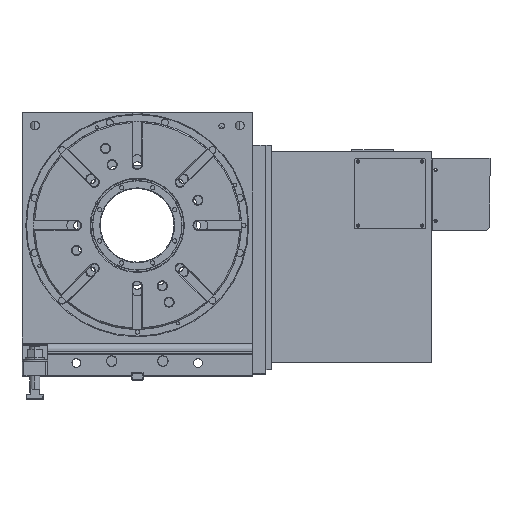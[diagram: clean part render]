
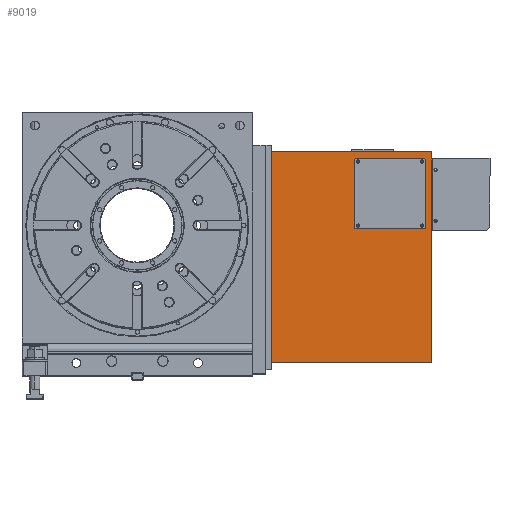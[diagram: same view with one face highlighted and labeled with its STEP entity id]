
A CAD part, top view. The second image highlights one B-rep face of the part: STEP entity #9019.
In plain terms, the highlighted planar face has unit normal (0, 0, 1).
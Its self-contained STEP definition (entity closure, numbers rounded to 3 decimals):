
#24 = LINE ( 'NONE', #7987, #8441 ) ;
#485 = CARTESIAN_POINT ( 'NONE',  ( 210., -220., 19.6 ) ) ;
#581 = AXIS2_PLACEMENT_3D ( 'NONE', #14123, #8814, #8288 ) ;
#1507 = ORIENTED_EDGE ( 'NONE', *, *, #25427, .F. ) ;
#1762 = CARTESIAN_POINT ( 'NONE',  ( 445., -2.05, 19.6 ) ) ;
#1783 = DIRECTION ( 'NONE',  ( 0., 0., 1. ) ) ;
#2195 = LINE ( 'NONE', #28580, #2834 ) ;
#2228 = AXIS2_PLACEMENT_3D ( 'NONE', #14734, #9082, #19855 ) ;
#2494 = EDGE_CURVE ( 'NONE', #17073, #31396, #23530, .T. ) ;
#2511 = CARTESIAN_POINT ( 'NONE',  ( 350., 94.6, 19.6 ) ) ;
#2704 = CARTESIAN_POINT ( 'NONE',  ( 460., -214.6, 19.6 ) ) ;
#2834 = VECTOR ( 'NONE', #12459, 1000. ) ;
#2969 = DIRECTION ( 'NONE',  ( 0., 1., 0. ) ) ;
#3054 = VERTEX_POINT ( 'NONE', #19810 ) ;
#4330 = CARTESIAN_POINT ( 'NONE',  ( 460., -214.6, 19.6 ) ) ;
#4553 = DIRECTION ( 'NONE',  ( 0., -1., 0. ) ) ;
#5400 = ORIENTED_EDGE ( 'NONE', *, *, #23151, .F. ) ;
#6048 = AXIS2_PLACEMENT_3D ( 'NONE', #13594, #7939, #32356 ) ;
#6283 = CARTESIAN_POINT ( 'NONE',  ( 350., 4.6, 19.6 ) ) ;
#6567 = ORIENTED_EDGE ( 'NONE', *, *, #13017, .T. ) ;
#7047 = VERTEX_POINT ( 'NONE', #6283 ) ;
#7348 = CIRCLE ( 'NONE', #18654, 1.65 ) ;
#7490 = LINE ( 'NONE', #2704, #29823 ) ;
#7600 = DIRECTION ( 'NONE',  ( 0., 0., 1. ) ) ;
#7939 = DIRECTION ( 'NONE',  ( 0., 0., 1. ) ) ;
#7987 = CARTESIAN_POINT ( 'NONE',  ( 460., -213., 19.6 ) ) ;
#8198 = VERTEX_POINT ( 'NONE', #4330 ) ;
#8288 = DIRECTION ( 'NONE',  ( 0., -1., 0. ) ) ;
#8441 = VECTOR ( 'NONE', #24613, 1000. ) ;
#8756 = DIRECTION ( 'NONE',  ( 0., 0., 1. ) ) ;
#8814 = DIRECTION ( 'NONE',  ( 0., 0., 1. ) ) ;
#9019 = ADVANCED_FACE ( 'NONE', ( #29023, #22083, #21735, #21566, #29718, #26881 ), #16077, .T. ) ;
#9082 = DIRECTION ( 'NONE',  ( 0., 0., 1. ) ) ;
#9287 = CARTESIAN_POINT ( 'NONE',  ( 345., -0.4, 19.6 ) ) ;
#9517 = ORIENTED_EDGE ( 'NONE', *, *, #27578, .F. ) ;
#9538 = CARTESIAN_POINT ( 'NONE',  ( 350., 4.6, 19.6 ) ) ;
#9983 = CARTESIAN_POINT ( 'NONE',  ( 460., 114.6, 19.6 ) ) ;
#10388 = CARTESIAN_POINT ( 'NONE',  ( 345., 99.6, 19.6 ) ) ;
#10567 = CARTESIAN_POINT ( 'NONE',  ( 345., 1.25, 19.6 ) ) ;
#10892 = CARTESIAN_POINT ( 'NONE',  ( 345., 101.25, 19.6 ) ) ;
#11135 = EDGE_LOOP ( 'NONE', ( #19902, #24289 ) ) ;
#11137 = EDGE_LOOP ( 'NONE', ( #20317, #27758 ) ) ;
#11316 = CARTESIAN_POINT ( 'NONE',  ( 445., 101.25, 19.6 ) ) ;
#11362 = EDGE_CURVE ( 'NONE', #8198, #29715, #24, .T. ) ;
#11405 = DIRECTION ( 'NONE',  ( 0., -1., 0. ) ) ;
#11869 = CIRCLE ( 'NONE', #581, 1.65 ) ;
#12459 = DIRECTION ( 'NONE',  ( 0., -1., 0. ) ) ;
#12718 = AXIS2_PLACEMENT_3D ( 'NONE', #33803, #1783, #34322 ) ;
#13017 = EDGE_CURVE ( 'NONE', #29715, #21808, #20483, .T. ) ;
#13594 = CARTESIAN_POINT ( 'NONE',  ( 460., -213., 19.6 ) ) ;
#14123 = CARTESIAN_POINT ( 'NONE',  ( 445., -0.4, 19.6 ) ) ;
#14173 = CARTESIAN_POINT ( 'NONE',  ( 440., 94.6, 19.6 ) ) ;
#14666 = ORIENTED_EDGE ( 'NONE', *, *, #2494, .F. ) ;
#14734 = CARTESIAN_POINT ( 'NONE',  ( 445., -0.4, 19.6 ) ) ;
#14938 = VERTEX_POINT ( 'NONE', #1762 ) ;
#15522 = DIRECTION ( 'NONE',  ( 0., 0., 1. ) ) ;
#15803 = EDGE_CURVE ( 'NONE', #25112, #27290, #24187, .T. ) ;
#16031 = VECTOR ( 'NONE', #2969, 1000. ) ;
#16077 = PLANE ( 'NONE',  #6048 ) ;
#16314 = EDGE_CURVE ( 'NONE', #14938, #25388, #11869, .T. ) ;
#16405 = LINE ( 'NONE', #485, #16031 ) ;
#16550 = EDGE_CURVE ( 'NONE', #24241, #27310, #7348, .T. ) ;
#17073 = VERTEX_POINT ( 'NONE', #14173 ) ;
#17085 = EDGE_LOOP ( 'NONE', ( #9517, #14666, #5400, #1507 ) ) ;
#17267 = VECTOR ( 'NONE', #23183, 1000. ) ;
#17609 = VERTEX_POINT ( 'NONE', #10567 ) ;
#17983 = AXIS2_PLACEMENT_3D ( 'NONE', #32747, #32393, #19296 ) ;
#18014 = DIRECTION ( 'NONE',  ( -1., 0., 0. ) ) ;
#18381 = DIRECTION ( 'NONE',  ( 0., -1., 0. ) ) ;
#18393 = CARTESIAN_POINT ( 'NONE',  ( 210., 114.6, 19.6 ) ) ;
#18654 = AXIS2_PLACEMENT_3D ( 'NONE', #10388, #15522, #4553 ) ;
#18786 = LINE ( 'NONE', #21280, #33120 ) ;
#19230 = EDGE_CURVE ( 'NONE', #27290, #25112, #26097, .T. ) ;
#19296 = DIRECTION ( 'NONE',  ( 0., -1., 0. ) ) ;
#19810 = CARTESIAN_POINT ( 'NONE',  ( 345., -2.05, 19.6 ) ) ;
#19855 = DIRECTION ( 'NONE',  ( 0., -1., 0. ) ) ;
#19893 = ORIENTED_EDGE ( 'NONE', *, *, #25230, .F. ) ;
#19902 = ORIENTED_EDGE ( 'NONE', *, *, #16550, .F. ) ;
#20317 = ORIENTED_EDGE ( 'NONE', *, *, #16314, .F. ) ;
#20414 = EDGE_CURVE ( 'NONE', #27673, #21808, #16405, .T. ) ;
#20483 = LINE ( 'NONE', #31287, #24949 ) ;
#21280 = CARTESIAN_POINT ( 'NONE',  ( 440., 94.6, 19.6 ) ) ;
#21373 = ORIENTED_EDGE ( 'NONE', *, *, #19230, .F. ) ;
#21432 = CIRCLE ( 'NONE', #2228, 1.65 ) ;
#21566 = FACE_BOUND ( 'NONE', #11135, .T. ) ;
#21712 = DIRECTION ( 'NONE',  ( 0., 0., 1. ) ) ;
#21735 = FACE_BOUND ( 'NONE', #29395, .T. ) ;
#21808 = VERTEX_POINT ( 'NONE', #18393 ) ;
#21834 = EDGE_CURVE ( 'NONE', #27310, #24241, #27996, .T. ) ;
#22083 = FACE_BOUND ( 'NONE', #11137, .T. ) ;
#22155 = ORIENTED_EDGE ( 'NONE', *, *, #15803, .F. ) ;
#22965 = CIRCLE ( 'NONE', #26913, 1.65 ) ;
#23007 = ORIENTED_EDGE ( 'NONE', *, *, #26248, .F. ) ;
#23151 = EDGE_CURVE ( 'NONE', #31548, #17073, #18786, .T. ) ;
#23183 = DIRECTION ( 'NONE',  ( -1., 0., 0. ) ) ;
#23511 = CARTESIAN_POINT ( 'NONE',  ( 445., 97.95, 19.6 ) ) ;
#23530 = LINE ( 'NONE', #29034, #17267 ) ;
#23597 = ORIENTED_EDGE ( 'NONE', *, *, #31898, .F. ) ;
#24106 = DIRECTION ( 'NONE',  ( 0., 1., 0. ) ) ;
#24187 = CIRCLE ( 'NONE', #17983, 1.65 ) ;
#24191 = CARTESIAN_POINT ( 'NONE',  ( 445., 99.6, 19.6 ) ) ;
#24241 = VERTEX_POINT ( 'NONE', #27690 ) ;
#24289 = ORIENTED_EDGE ( 'NONE', *, *, #21834, .F. ) ;
#24613 = DIRECTION ( 'NONE',  ( 0., 1., 0. ) ) ;
#24949 = VECTOR ( 'NONE', #18014, 1000. ) ;
#24967 = CARTESIAN_POINT ( 'NONE',  ( 440., 4.6, 19.6 ) ) ;
#25112 = VERTEX_POINT ( 'NONE', #11316 ) ;
#25230 = EDGE_CURVE ( 'NONE', #8198, #27673, #7490, .T. ) ;
#25388 = VERTEX_POINT ( 'NONE', #29955 ) ;
#25427 = EDGE_CURVE ( 'NONE', #7047, #31548, #27122, .T. ) ;
#25650 = DIRECTION ( 'NONE',  ( 1., 0., 0. ) ) ;
#25698 = EDGE_LOOP ( 'NONE', ( #6567, #26368, #19893, #28356 ) ) ;
#26097 = CIRCLE ( 'NONE', #32880, 1.65 ) ;
#26248 = EDGE_CURVE ( 'NONE', #3054, #17609, #31006, .T. ) ;
#26368 = ORIENTED_EDGE ( 'NONE', *, *, #20414, .F. ) ;
#26881 = FACE_OUTER_BOUND ( 'NONE', #25698, .T. ) ;
#26913 = AXIS2_PLACEMENT_3D ( 'NONE', #31844, #7600, #18381 ) ;
#26957 = CARTESIAN_POINT ( 'NONE',  ( 210., -214.6, 19.6 ) ) ;
#27040 = EDGE_LOOP ( 'NONE', ( #23007, #23597 ) ) ;
#27062 = AXIS2_PLACEMENT_3D ( 'NONE', #9287, #8756, #11405 ) ;
#27122 = LINE ( 'NONE', #9538, #28685 ) ;
#27290 = VERTEX_POINT ( 'NONE', #23511 ) ;
#27310 = VERTEX_POINT ( 'NONE', #10892 ) ;
#27578 = EDGE_CURVE ( 'NONE', #31396, #7047, #2195, .T. ) ;
#27673 = VERTEX_POINT ( 'NONE', #26957 ) ;
#27690 = CARTESIAN_POINT ( 'NONE',  ( 345., 97.95, 19.6 ) ) ;
#27758 = ORIENTED_EDGE ( 'NONE', *, *, #34097, .F. ) ;
#27996 = CIRCLE ( 'NONE', #12718, 1.65 ) ;
#28356 = ORIENTED_EDGE ( 'NONE', *, *, #11362, .T. ) ;
#28580 = CARTESIAN_POINT ( 'NONE',  ( 350., 94.6, 19.6 ) ) ;
#28685 = VECTOR ( 'NONE', #25650, 1000. ) ;
#29023 = FACE_BOUND ( 'NONE', #27040, .T. ) ;
#29034 = CARTESIAN_POINT ( 'NONE',  ( 350., 94.6, 19.6 ) ) ;
#29395 = EDGE_LOOP ( 'NONE', ( #21373, #22155 ) ) ;
#29715 = VERTEX_POINT ( 'NONE', #9983 ) ;
#29718 = FACE_BOUND ( 'NONE', #17085, .T. ) ;
#29823 = VECTOR ( 'NONE', #34549, 1000. ) ;
#29955 = CARTESIAN_POINT ( 'NONE',  ( 445., 1.25, 19.6 ) ) ;
#31006 = CIRCLE ( 'NONE', #27062, 1.65 ) ;
#31287 = CARTESIAN_POINT ( 'NONE',  ( 460., 114.6, 19.6 ) ) ;
#31396 = VERTEX_POINT ( 'NONE', #2511 ) ;
#31548 = VERTEX_POINT ( 'NONE', #24967 ) ;
#31844 = CARTESIAN_POINT ( 'NONE',  ( 345., -0.4, 19.6 ) ) ;
#31898 = EDGE_CURVE ( 'NONE', #17609, #3054, #22965, .T. ) ;
#32356 = DIRECTION ( 'NONE',  ( 0., -1., 0. ) ) ;
#32393 = DIRECTION ( 'NONE',  ( 0., 0., 1. ) ) ;
#32747 = CARTESIAN_POINT ( 'NONE',  ( 445., 99.6, 19.6 ) ) ;
#32880 = AXIS2_PLACEMENT_3D ( 'NONE', #24191, #21712, #34969 ) ;
#33120 = VECTOR ( 'NONE', #24106, 1000. ) ;
#33803 = CARTESIAN_POINT ( 'NONE',  ( 345., 99.6, 19.6 ) ) ;
#34097 = EDGE_CURVE ( 'NONE', #25388, #14938, #21432, .T. ) ;
#34322 = DIRECTION ( 'NONE',  ( 0., -1., 0. ) ) ;
#34549 = DIRECTION ( 'NONE',  ( -1., 0., 0. ) ) ;
#34969 = DIRECTION ( 'NONE',  ( 0., -1., 0. ) ) ;
